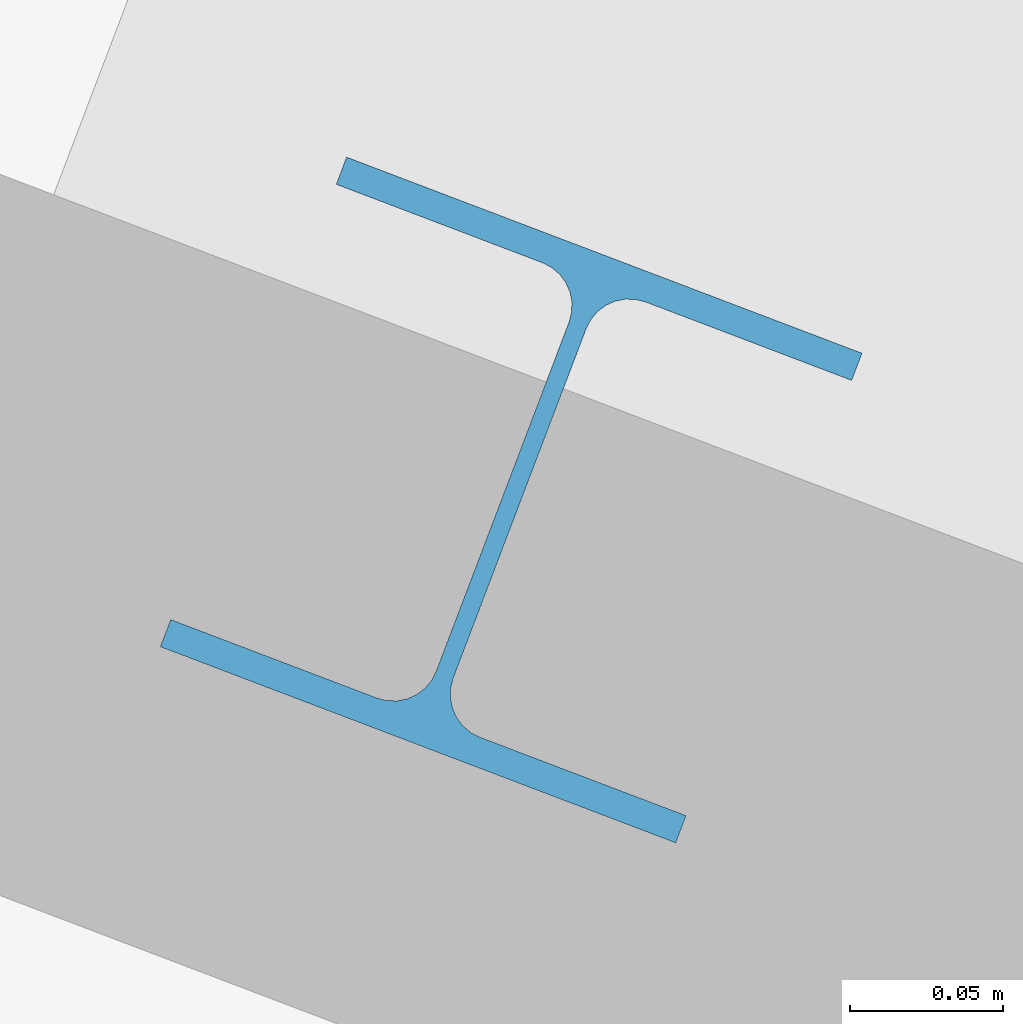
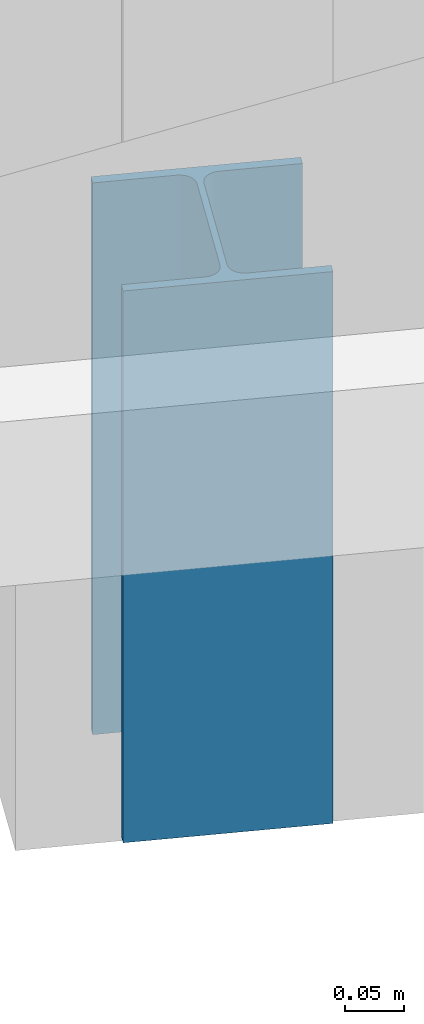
# One storey, part 38 of 46: 1 column.
"""IFC2X3 building model written with IfcOpenShell, lengths in millimetres."""

from ifc_helpers import new_model, entity, si_unit, converted_unit, derived_unit, direction, frame, frame_2d, origin, place, context, subcontext, project, spatial, i_section, extrude, source, transform, mapped, material, type_object, type_shapes, element, save


model = new_model("IFC2X3")

# Units and contexts
model_context = context("Model", 3, precision=0.01, world=origin(), true_north=direction((6.123233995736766e-17, 1.0)))
body_context = subcontext(model_context, "Body", "Model", "MODEL_VIEW")
ifc_project = project(units=[si_unit("LENGTHUNIT", "METRE", prefix="MILLI"), converted_unit("PLANEANGLEUNIT", "DEGREE", entity("IfcPlaneAngleMeasure", 0.017453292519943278), si_unit("PLANEANGLEUNIT", "RADIAN"), dimensions=[0, 0, 0, 0, 0, 0, 0]), si_unit("AREAUNIT", "SQUARE_METRE"), derived_unit("THERMALTRANSMITTANCEUNIT", [(si_unit("MASSUNIT", "GRAM", prefix="KILO"), 1), (si_unit("THERMODYNAMICTEMPERATUREUNIT", "KELVIN"), -1), (si_unit("TIMEUNIT", "SECOND"), -3)])], contexts=[model_context])

# Site, building, storey
site_placement = place(None, frame((-72937.88054949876, 11621.45624098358, 0.0), z_axis=(0.0, 0.0, 1.0), x_axis=(0.9346418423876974, -0.35559053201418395, 0.0)))
site = spatial("IfcSite", under=ifc_project, at=site_placement, Name="Default", CompositionType="ELEMENT")
building_placement = place(site_placement, origin())
building = spatial("IfcBuilding", under=site, at=building_placement, CompositionType="ELEMENT")
storey_placement = place(building_placement, origin())
storey = spatial("IfcBuildingStorey", under=building, at=storey_placement, Name="00 begane grond", CompositionType="ELEMENT", Elevation=0.0)

# Column
ifc_material = material(Name="metaal_staal_generiek")
column_type = type_object("IfcColumnType", Name="DIE18", PredefinedType="COLUMN", material=ifc_material)
shared_shape = source(origin(), body_context, "Body", "SweptSolid", [
    extrude(i_section(OverallWidth=180.0000000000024, OverallDepth=171.0000000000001, WebThickness=5.999999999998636, FlangeThickness=9.500000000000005, FilletRadius=15.0, at=frame_2d((4.334310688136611e-12, -2.1671553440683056e-12), x_axis=(1.0, 0.0))), frame((43380.0, 12882.982078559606, -630.0), z_axis=(0.0, 0.0, 1.0), x_axis=(-1.0, 0.0, 0.0)), (0.0, 0.0, 1.0), 570.0000000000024),
])
type_shapes(column_type, [shared_shape])
column_placement = place(storey_placement, origin())
element("IfcColumn", 1, at=column_placement, inside=storey, type_object=column_type, material=ifc_material, Name="28.11_SCO_KolomHEA:DIE18", ObjectType="28.11_SCO_KolomHEA:DIE18", context=body_context, shape_type="MappedRepresentation", body=[
    mapped(shared_shape, transform((0.0, 0.0, 0.0), scale=1.0)),
])

save(model, "model.ifc")
